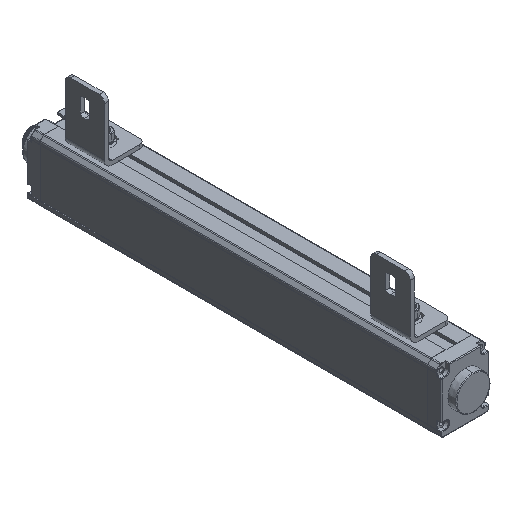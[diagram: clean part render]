
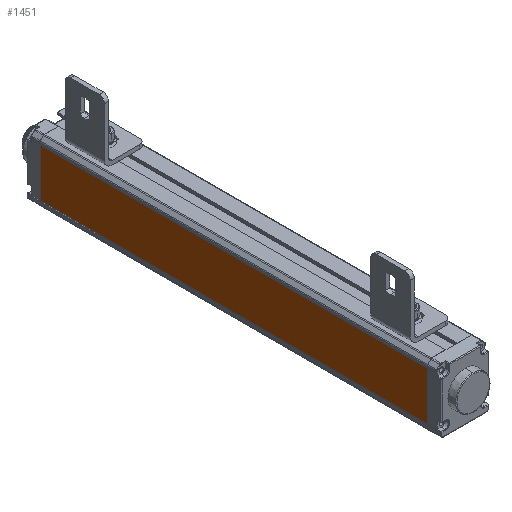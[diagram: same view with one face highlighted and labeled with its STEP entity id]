
A CAD part, isometric view. The second image highlights one B-rep face of the part: STEP entity #1451.
In plain terms, the highlighted planar face has unit normal (-1, 0, 0).
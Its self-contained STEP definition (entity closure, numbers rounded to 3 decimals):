
#24=DIRECTION('',(0.,0.,1.));
#25=VECTOR('',#24,35.4);
#26=CARTESIAN_POINT('',(-17.7,-142.5,-18.1));
#27=LINE('',#26,#25);
#361=DIRECTION('',(0.,0.,1.));
#362=VECTOR('',#361,35.4);
#363=CARTESIAN_POINT('',(-17.7,142.5,-18.1));
#364=LINE('',#363,#362);
#534=DIRECTION('',(0.,1.,0.));
#535=VECTOR('',#534,285.);
#536=CARTESIAN_POINT('',(-17.7,-142.5,17.3));
#537=LINE('',#536,#535);
#538=DIRECTION('',(0.,1.,0.));
#539=VECTOR('',#538,285.);
#540=CARTESIAN_POINT('',(-17.7,-142.5,-18.1));
#541=LINE('',#540,#539);
#613=CARTESIAN_POINT('',(-17.7,-142.5,-18.1));
#615=VERTEX_POINT('',#613);
#616=CARTESIAN_POINT('',(-17.7,-142.5,17.3));
#617=VERTEX_POINT('',#616);
#633=CARTESIAN_POINT('',(-17.7,142.5,-18.1));
#635=VERTEX_POINT('',#633);
#636=CARTESIAN_POINT('',(-17.7,142.5,17.3));
#637=VERTEX_POINT('',#636);
#1439=CARTESIAN_POINT('',(-17.7,-142.5,-18.1));
#1440=DIRECTION('',(-1.,0.,0.));
#1441=DIRECTION('',(0.,0.,1.));
#1442=AXIS2_PLACEMENT_3D('',#1439,#1440,#1441);
#1443=PLANE('',#1442);
#1444=ORIENTED_EDGE('',*,*,#741,.F.);
#1446=ORIENTED_EDGE('',*,*,#1445,.T.);
#1447=ORIENTED_EDGE('',*,*,#933,.T.);
#1448=ORIENTED_EDGE('',*,*,#1432,.F.);
#1449=EDGE_LOOP('',(#1444,#1446,#1447,#1448));
#1450=FACE_OUTER_BOUND('',#1449,.F.);
#1451=ADVANCED_FACE('',(#1450),#1443,.T.);
#741=EDGE_CURVE('',#615,#617,#27,.T.);
#933=EDGE_CURVE('',#635,#637,#364,.T.);
#1432=EDGE_CURVE('',#617,#637,#537,.T.);
#1445=EDGE_CURVE('',#615,#635,#541,.T.);
